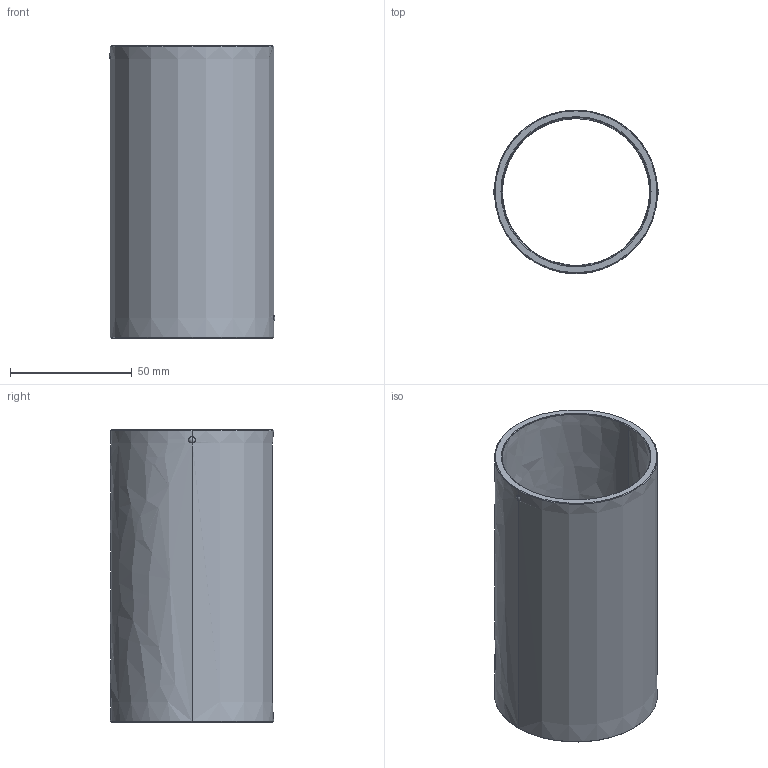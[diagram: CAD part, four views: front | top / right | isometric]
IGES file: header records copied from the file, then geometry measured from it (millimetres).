
Start section: START RECORD GO HERE.
Global section: file name: 730-60x120.igs; native system: DASSAULT SYSTEMES CATIA V5 R20 - www.3ds.com; preprocessor: CATIA Version 5 Release 20 ; author: Utente; organization: NB04-ASUS; date: 20210107.170419; units: millimetre
Bounding box: 67.99 x 67 x 120 mm (x, y, z)
Surface area: 50032.4 mm2 (no closed solid volume)
Topology: 0 solids, 0 shells, 44 faces, 242 edges, 240 vertices
Faces by surface type: revolution 36, plane 8
